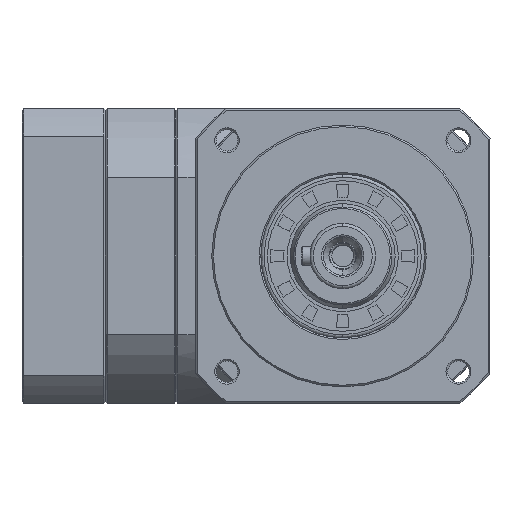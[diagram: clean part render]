
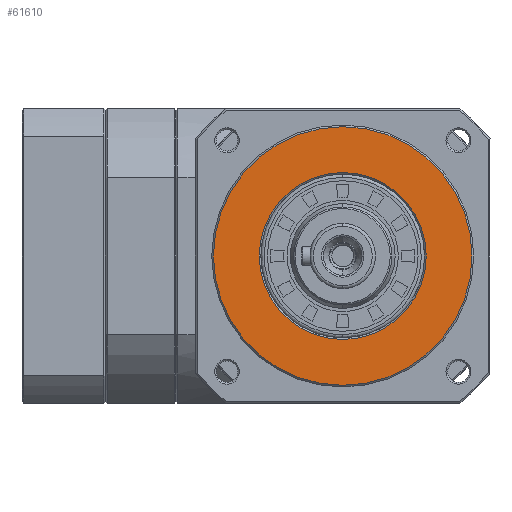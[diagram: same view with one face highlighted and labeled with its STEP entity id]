
A CAD part, left-side view. The second image highlights one B-rep face of the part: STEP entity #61610.
In plain terms, the highlighted planar face has unit normal (-1, 0, 0).
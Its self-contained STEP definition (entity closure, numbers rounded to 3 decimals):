
#3480 = CIRCLE ( 'NONE', #28584, 39.5 ) ;
#6108 = DIRECTION ( 'NONE',  ( 0., 0., -1. ) ) ;
#6914 = AXIS2_PLACEMENT_3D ( 'NONE', #17230, #46072, #68661 ) ;
#8332 = ORIENTED_EDGE ( 'NONE', *, *, #23173, .F. ) ;
#10734 = DIRECTION ( 'NONE',  ( 1., 0., 0. ) ) ;
#12830 = AXIS2_PLACEMENT_3D ( 'NONE', #90411, #10734, #31312 ) ;
#14371 = DIRECTION ( 'NONE',  ( -1., 0., 0. ) ) ;
#15898 = FACE_OUTER_BOUND ( 'NONE', #84496, .T. ) ;
#17230 = CARTESIAN_POINT ( 'NONE',  ( 0., 0., 0. ) ) ;
#17825 = EDGE_CURVE ( 'NONE', #32610, #35405, #3480, .T. ) ;
#18647 = EDGE_CURVE ( 'NONE', #35405, #32610, #93169, .T. ) ;
#22103 = CARTESIAN_POINT ( 'NONE',  ( 0., 0., 39.5 ) ) ;
#23173 = EDGE_CURVE ( 'NONE', #26895, #92328, #48291, .T. ) ;
#24351 = PLANE ( 'NONE',  #12830 ) ;
#26895 = VERTEX_POINT ( 'NONE', #49441 ) ;
#28584 = AXIS2_PLACEMENT_3D ( 'NONE', #79750, #42884, #6108 ) ;
#31312 = DIRECTION ( 'NONE',  ( 0., 0., -1. ) ) ;
#32610 = VERTEX_POINT ( 'NONE', #22103 ) ;
#33711 = CARTESIAN_POINT ( 'NONE',  ( 0., 0., -25.5 ) ) ;
#35405 = VERTEX_POINT ( 'NONE', #83172 ) ;
#39702 = FACE_BOUND ( 'NONE', #58393, .T. ) ;
#42884 = DIRECTION ( 'NONE',  ( -1., 0., 0. ) ) ;
#43131 = DIRECTION ( 'NONE',  ( 0., 0., 1. ) ) ;
#46072 = DIRECTION ( 'NONE',  ( -1., 0., 0. ) ) ;
#48291 = CIRCLE ( 'NONE', #6914, 25.5 ) ;
#49390 = ORIENTED_EDGE ( 'NONE', *, *, #18647, .T. ) ;
#49441 = CARTESIAN_POINT ( 'NONE',  ( 0., 0., 25.5 ) ) ;
#49790 = ORIENTED_EDGE ( 'NONE', *, *, #17825, .T. ) ;
#55897 = CIRCLE ( 'NONE', #75846, 25.5 ) ;
#56695 = EDGE_CURVE ( 'NONE', #92328, #26895, #55897, .T. ) ;
#56799 = DIRECTION ( 'NONE',  ( -1., 0., 0. ) ) ;
#57831 = CARTESIAN_POINT ( 'NONE',  ( 0., 0., 0. ) ) ;
#58393 = EDGE_LOOP ( 'NONE', ( #8332, #68970 ) ) ;
#61610 = ADVANCED_FACE ( 'NONE', ( #39702, #15898 ), #24351, .F. ) ;
#68661 = DIRECTION ( 'NONE',  ( 0., 0., 1. ) ) ;
#68970 = ORIENTED_EDGE ( 'NONE', *, *, #56695, .F. ) ;
#73699 = AXIS2_PLACEMENT_3D ( 'NONE', #57831, #14371, #87100 ) ;
#75846 = AXIS2_PLACEMENT_3D ( 'NONE', #79057, #56799, #43131 ) ;
#79057 = CARTESIAN_POINT ( 'NONE',  ( 0., 0., 0. ) ) ;
#79750 = CARTESIAN_POINT ( 'NONE',  ( 0., 0., 0. ) ) ;
#83172 = CARTESIAN_POINT ( 'NONE',  ( 0., 0., -39.5 ) ) ;
#84496 = EDGE_LOOP ( 'NONE', ( #49390, #49790 ) ) ;
#87100 = DIRECTION ( 'NONE',  ( 0., 0., -1. ) ) ;
#90411 = CARTESIAN_POINT ( 'NONE',  ( 0., -39.974, 39.974 ) ) ;
#92328 = VERTEX_POINT ( 'NONE', #33711 ) ;
#93169 = CIRCLE ( 'NONE', #73699, 39.5 ) ;
